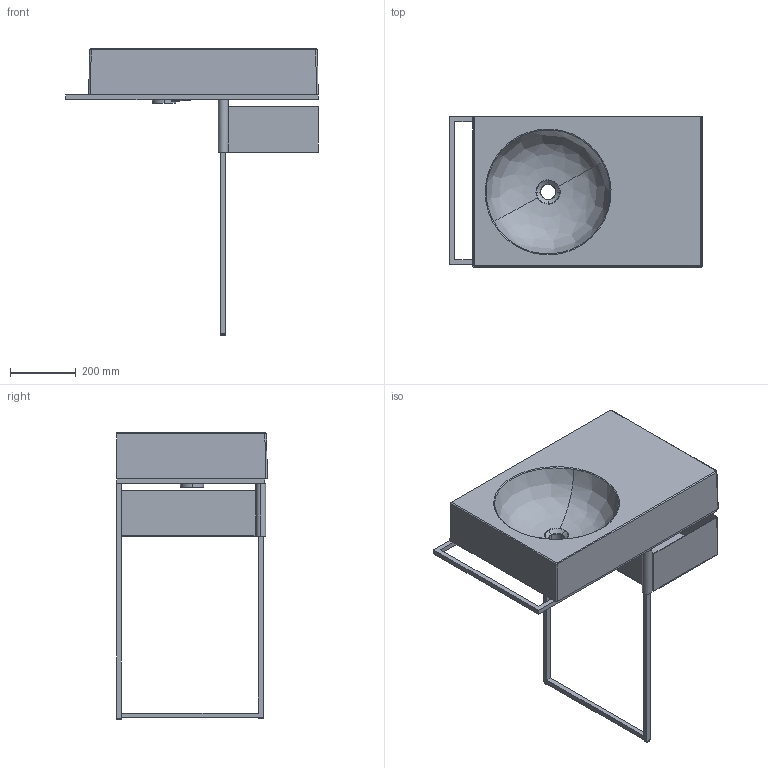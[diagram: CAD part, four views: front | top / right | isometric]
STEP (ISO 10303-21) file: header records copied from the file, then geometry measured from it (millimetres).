
FILE_DESCRIPTION(('CATIA V5 STEP Exchange'),'2;1');
FILE_NAME('C:\Users\167035\Downloads\7722\3D_7722 con lavabo.stp','2025-07-21T07:59:21+00:00',('none'),('none'),'CATIA Version 5 Release 19 SP 5 (IN-10)','CATIA V5 STEP AP214','none');
FILE_SCHEMA(('AUTOMOTIVE_DESIGN { 1 0 10303 214 1 1 1 1 }'));
Length unit declared in the file: millimetre
Products named in the file (1): Struttura art 7722
Bounding box: 770.15 x 460.21 x 873 mm (x, y, z)
Volume: 1774864.5 mm3; surface area: 2240735.9 mm2
Topology: 2 solids, 3 shells, 298 faces, 756 edges, 451 vertices
Faces by surface type: cylinder 101, plane 80, bspline 77, torus 34, sphere 6
Entity records: 15064 total; most frequent: CARTESIAN_POINT 8895, ORIENTED_EDGE 1459, DIRECTION 859, EDGE_CURVE 742, VERTEX_POINT 450, AXIS2_PLACEMENT_3D 387, EDGE_LOOP 316, ADVANCED_FACE 298
